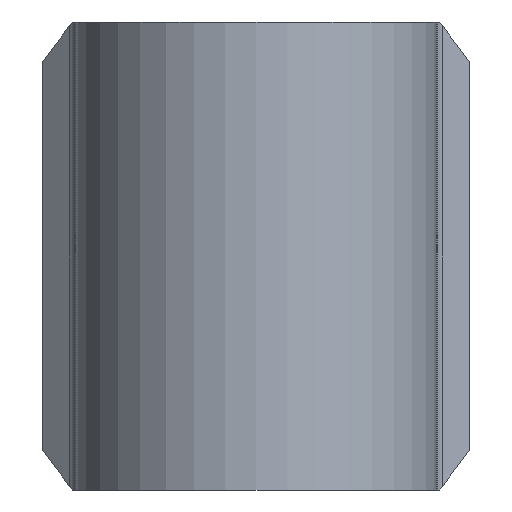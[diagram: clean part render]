
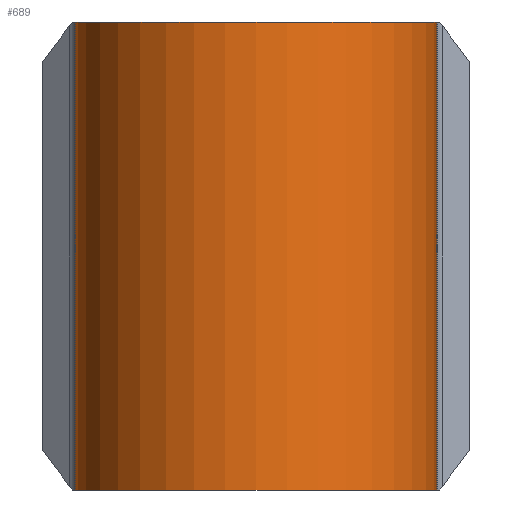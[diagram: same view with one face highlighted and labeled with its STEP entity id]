
A CAD part, front view. The second image highlights one B-rep face of the part: STEP entity #689.
In plain terms, the highlighted cylindrical face has radius 13.5 mm (diameter 27 mm), a partial arc.
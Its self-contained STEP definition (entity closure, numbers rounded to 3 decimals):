
#4 = LINE ( 'NONE', #264, #482 ) ;
#31 = CYLINDRICAL_SURFACE ( 'NONE', #39, 13.5 ) ;
#37 = AXIS2_PLACEMENT_3D ( 'NONE', #200, #978, #548 ) ;
#39 = AXIS2_PLACEMENT_3D ( 'NONE', #973, #814, #1078 ) ;
#46 = DIRECTION ( 'NONE',  ( 1., 0., 0. ) ) ;
#200 = CARTESIAN_POINT ( 'NONE',  ( 0., 4.25, 0. ) ) ;
#240 = ORIENTED_EDGE ( 'NONE', *, *, #837, .F. ) ;
#256 = EDGE_CURVE ( 'NONE', #307, #1018, #1045, .T. ) ;
#264 = CARTESIAN_POINT ( 'NONE',  ( -13.5, 4.25, 35. ) ) ;
#277 = CARTESIAN_POINT ( 'NONE',  ( 13.5, 4.25, 0. ) ) ;
#291 = ORIENTED_EDGE ( 'NONE', *, *, #1005, .T. ) ;
#307 = VERTEX_POINT ( 'NONE', #602 ) ;
#415 = DIRECTION ( 'NONE',  ( 0., 0., 1. ) ) ;
#426 = VECTOR ( 'NONE', #783, 1000. ) ;
#431 = ORIENTED_EDGE ( 'NONE', *, *, #634, .T. ) ;
#442 = CARTESIAN_POINT ( 'NONE',  ( 13.5, 4.25, 35. ) ) ;
#461 = VERTEX_POINT ( 'NONE', #743 ) ;
#479 = FACE_OUTER_BOUND ( 'NONE', #1028, .T. ) ;
#482 = VECTOR ( 'NONE', #701, 1000. ) ;
#545 = VERTEX_POINT ( 'NONE', #595 ) ;
#548 = DIRECTION ( 'NONE',  ( 1., 0., 0. ) ) ;
#595 = CARTESIAN_POINT ( 'NONE',  ( -13.5, 4.25, 35. ) ) ;
#602 = CARTESIAN_POINT ( 'NONE',  ( 13.5, 4.25, 35. ) ) ;
#634 = EDGE_CURVE ( 'NONE', #461, #1018, #818, .T. ) ;
#689 = ADVANCED_FACE ( 'NONE', ( #479 ), #31, .T. ) ;
#701 = DIRECTION ( 'NONE',  ( 0., 0., -1. ) ) ;
#743 = CARTESIAN_POINT ( 'NONE',  ( -13.5, 4.25, 0. ) ) ;
#783 = DIRECTION ( 'NONE',  ( 0., 0., -1. ) ) ;
#787 = CIRCLE ( 'NONE', #1016, 13.5 ) ;
#814 = DIRECTION ( 'NONE',  ( 0., 0., -1. ) ) ;
#818 = CIRCLE ( 'NONE', #37, 13.5 ) ;
#826 = CARTESIAN_POINT ( 'NONE',  ( 0., 4.25, 35. ) ) ;
#837 = EDGE_CURVE ( 'NONE', #545, #307, #787, .T. ) ;
#973 = CARTESIAN_POINT ( 'NONE',  ( 0., 4.25, 35. ) ) ;
#978 = DIRECTION ( 'NONE',  ( 0., 0., 1. ) ) ;
#1005 = EDGE_CURVE ( 'NONE', #545, #461, #4, .T. ) ;
#1016 = AXIS2_PLACEMENT_3D ( 'NONE', #826, #415, #46 ) ;
#1018 = VERTEX_POINT ( 'NONE', #277 ) ;
#1028 = EDGE_LOOP ( 'NONE', ( #1118, #240, #291, #431 ) ) ;
#1045 = LINE ( 'NONE', #442, #426 ) ;
#1078 = DIRECTION ( 'NONE',  ( -1., 0., 0. ) ) ;
#1118 = ORIENTED_EDGE ( 'NONE', *, *, #256, .F. ) ;
